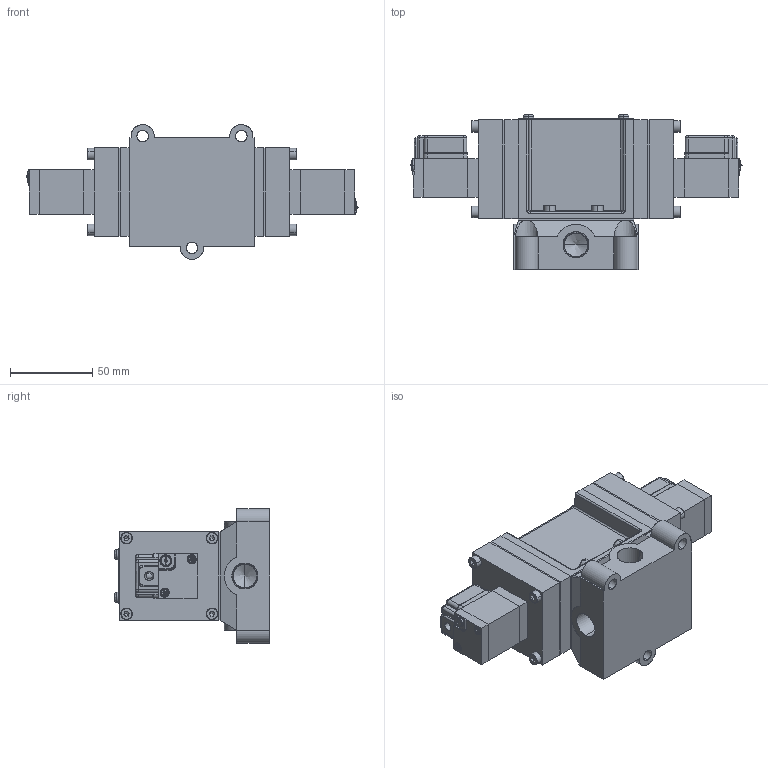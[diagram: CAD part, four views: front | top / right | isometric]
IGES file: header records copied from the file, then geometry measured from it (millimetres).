
Start section: SolidWorks IGES file using analytic representation for surfaces
Global section: file name: C:\Users\Toshiba\Desktop\PMD3408#-03-#G#.IGS; native system: SolidWorks 2014; preprocessor: SolidWorks 2014; author: Toshiba; date: 160121.142112; units: millimetre
Bounding box: 201.95 x 94.35 x 82 mm (x, y, z)
Surface area: 141355.2 mm2 (no closed solid volume)
Topology: 0 solids, 0 shells, 1094 faces, 11211 edges, 11157 vertices
Faces by surface type: bspline 682, revolution 412
